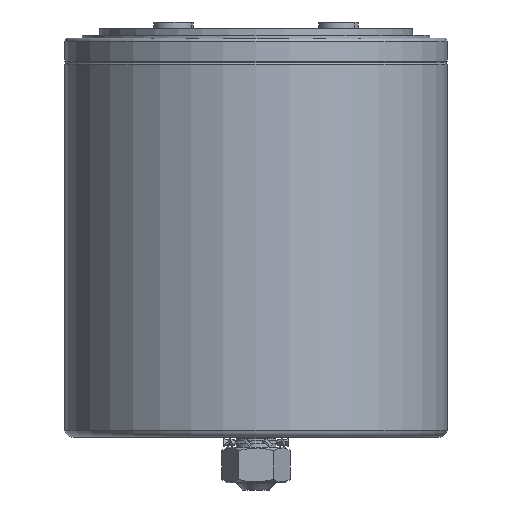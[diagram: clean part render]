
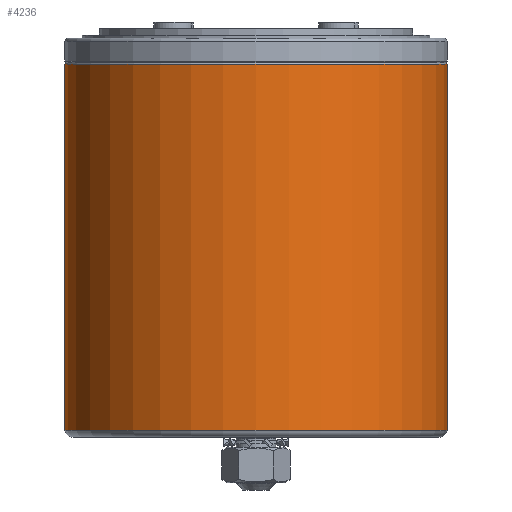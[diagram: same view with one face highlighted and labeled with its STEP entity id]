
A CAD part, front view. The second image highlights one B-rep face of the part: STEP entity #4236.
In plain terms, the highlighted cylindrical face has radius 58 mm (diameter 116 mm), a partial arc.
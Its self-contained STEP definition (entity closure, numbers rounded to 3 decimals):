
#56 = ORIENTED_EDGE ( 'NONE', *, *, #3584, .F. ) ;
#297 = FACE_OUTER_BOUND ( 'NONE', #2890, .T. ) ;
#450 = ORIENTED_EDGE ( 'NONE', *, *, #4722, .F. ) ;
#651 = DIRECTION ( 'NONE',  ( -1., 0., 0. ) ) ;
#1663 = LINE ( 'NONE', #1841, #8268 ) ;
#1841 = CARTESIAN_POINT ( 'NONE',  ( 42.5, 0., 151.967 ) ) ;
#1882 = CYLINDRICAL_SURFACE ( 'NONE', #4957, 58. ) ;
#2107 = CARTESIAN_POINT ( 'NONE',  ( -73.5, 0., 151.967 ) ) ;
#2529 = DIRECTION ( 'NONE',  ( 0., 0., -1. ) ) ;
#2593 = ORIENTED_EDGE ( 'NONE', *, *, #4400, .T. ) ;
#2728 = LINE ( 'NONE', #2107, #4029 ) ;
#2777 = VERTEX_POINT ( 'NONE', #3973 ) ;
#2890 = EDGE_LOOP ( 'NONE', ( #56, #3193, #2593, #450 ) ) ;
#2914 = DIRECTION ( 'NONE',  ( 0., 0., -1. ) ) ;
#3123 = DIRECTION ( 'NONE',  ( 0., 0., -1. ) ) ;
#3154 = CARTESIAN_POINT ( 'NONE',  ( -15.5, 0., 92.217 ) ) ;
#3193 = ORIENTED_EDGE ( 'NONE', *, *, #8559, .T. ) ;
#3302 = VERTEX_POINT ( 'NONE', #7537 ) ;
#3584 = EDGE_CURVE ( 'NONE', #7475, #2777, #1663, .T. ) ;
#3855 = AXIS2_PLACEMENT_3D ( 'NONE', #3154, #3123, #7216 ) ;
#3973 = CARTESIAN_POINT ( 'NONE',  ( 42.5, 0., -18.854 ) ) ;
#4029 = VECTOR ( 'NONE', #2914, 1000. ) ;
#4042 = CARTESIAN_POINT ( 'NONE',  ( -15.5, 0., -18.854 ) ) ;
#4236 = ADVANCED_FACE ( 'NONE', ( #297 ), #1882, .T. ) ;
#4400 = EDGE_CURVE ( 'NONE', #5683, #3302, #2728, .T. ) ;
#4722 = EDGE_CURVE ( 'NONE', #2777, #3302, #7223, .T. ) ;
#4957 = AXIS2_PLACEMENT_3D ( 'NONE', #5848, #6599, #8551 ) ;
#5683 = VERTEX_POINT ( 'NONE', #6754 ) ;
#5848 = CARTESIAN_POINT ( 'NONE',  ( -15.5, 0., 151.967 ) ) ;
#6599 = DIRECTION ( 'NONE',  ( 0., 0., -1. ) ) ;
#6754 = CARTESIAN_POINT ( 'NONE',  ( -73.5, 0., 92.217 ) ) ;
#6991 = AXIS2_PLACEMENT_3D ( 'NONE', #4042, #8755, #651 ) ;
#7216 = DIRECTION ( 'NONE',  ( -1., 0., 0. ) ) ;
#7223 = CIRCLE ( 'NONE', #6991, 58. ) ;
#7443 = CARTESIAN_POINT ( 'NONE',  ( 42.5, 0., 92.217 ) ) ;
#7475 = VERTEX_POINT ( 'NONE', #7443 ) ;
#7537 = CARTESIAN_POINT ( 'NONE',  ( -73.5, 0., -18.854 ) ) ;
#7783 = CIRCLE ( 'NONE', #3855, 58. ) ;
#8268 = VECTOR ( 'NONE', #2529, 1000. ) ;
#8551 = DIRECTION ( 'NONE',  ( -1., 0., 0. ) ) ;
#8559 = EDGE_CURVE ( 'NONE', #7475, #5683, #7783, .T. ) ;
#8755 = DIRECTION ( 'NONE',  ( 0., 0., -1. ) ) ;
